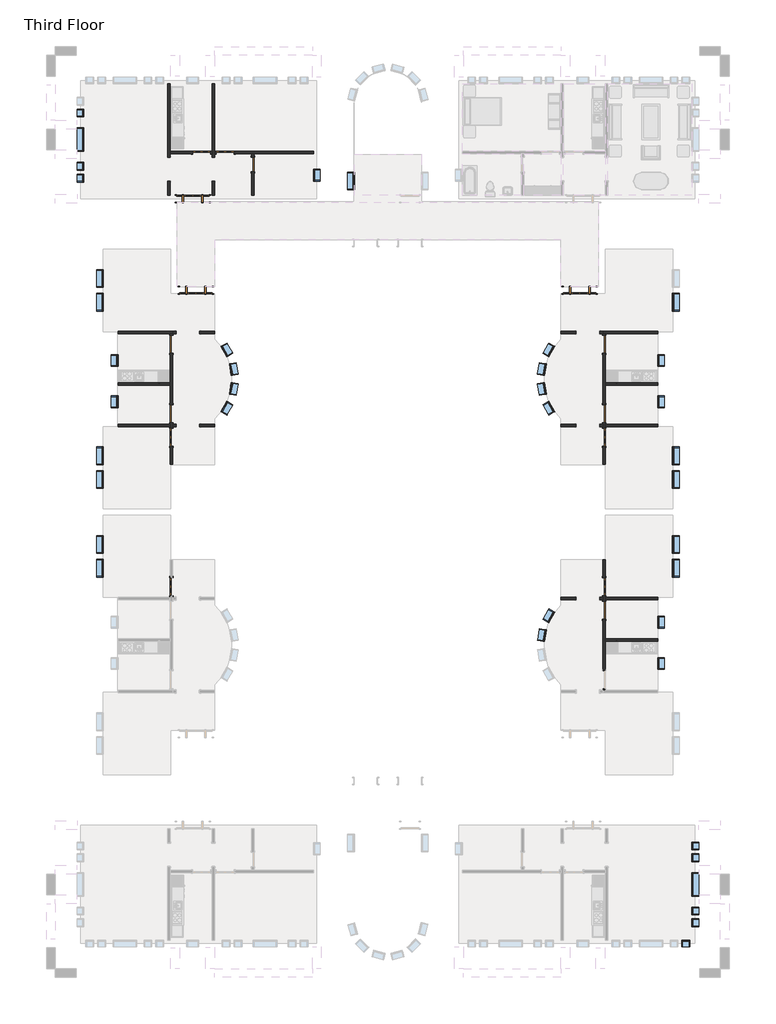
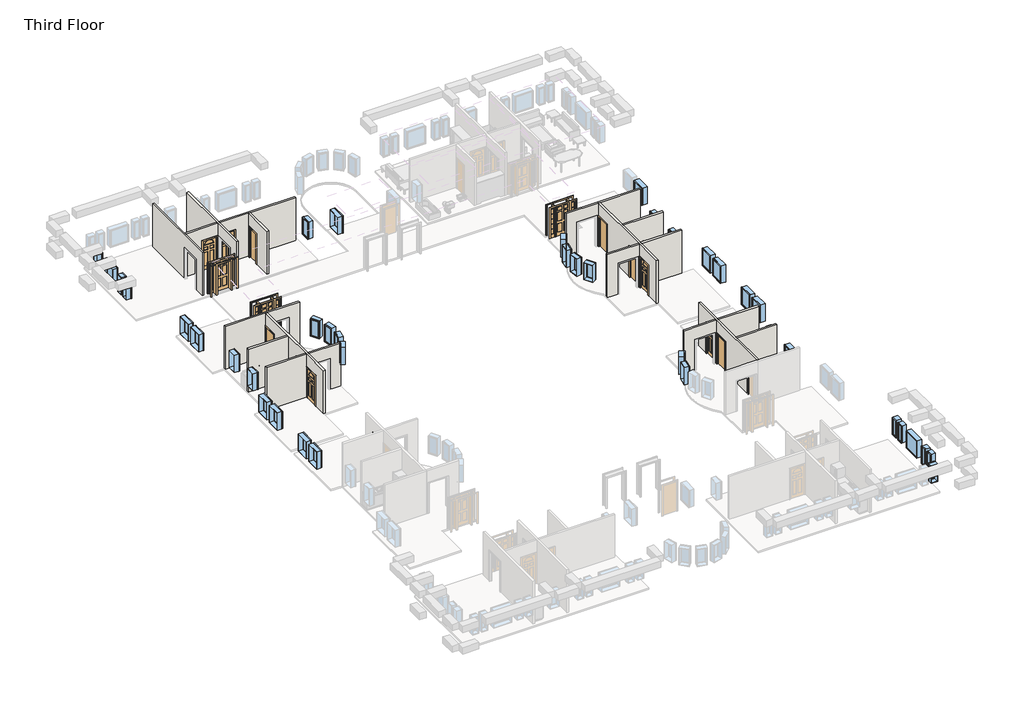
# One storey, part 2 of 4: 39 windows, 21 walls, 15 doors.
"""IFC4 building model written with IfcOpenShell, lengths in millimetres."""

from ifc_helpers import new_model, si_unit, frame, origin, place, context, project, spatial, polyline, outline, extrude, faceted_brep, transform, mapped, element, save
from components import door_829da954, door_2e3b4da2, door_e36758a9, door_a1797ceb, door_a3eb833a, door_dba5aa2e, door_ffdb1193, window_da97879f, window_d61ef850, window_60baf983, window_ed80354a, window_15c49d37, window_0e2fc6ce, window_d89bf842

model = new_model("IFC4")

# Units and contexts
model_context = context("Model", 3, world=origin())
ifc_project = project(units=[si_unit("LENGTHUNIT", "METRE", prefix="MILLI")], contexts=[model_context])

# Site, building, storey
site = spatial("IfcSite", under=ifc_project)
building = spatial("IfcBuilding", under=site)
storey = spatial("IfcBuildingStorey", under=building, Name="Third Floor", Elevation=6096.0)

# Doors
placement = place(None, origin())
door_shape = door_829da954(model_context)
element("IfcDoor", 1, ObjectType="Single-Decorative 2 : 36\" x 84\"", at=placement, inside=storey, context=model_context, shape_type="MappedRepresentation", body=[
    mapped(door_shape, transform((-3900.4589563, -7954.4808133, 6096.0), x_axis=(0.0, 1.0, 0.0), y_axis=(-1.0, 0.0, 0.0), z_axis=(0.0, 0.0, 1.0))),
])
element("IfcDoor", 2, ObjectType="Single-Decorative 2 : 36\" x 84\"", at=placement, inside=storey, context=model_context, shape_type="MappedRepresentation", body=[
    mapped(door_shape, transform((-23455.2839563, 6723.5441867, 6096.0), x_axis=(-1.0, 0.0, 0.0), y_axis=(0.0, -1.0, 0.0), z_axis=(0.0, 0.0, 1.0))),
])
element("IfcDoor", 3, ObjectType="Single-Decorative 2 : 36\" x 84\"", at=placement, inside=storey, context=model_context, shape_type="MappedRepresentation", body=[
    mapped(door_shape, transform((-26223.8839563, -15653.8558133, 6096.0), x_axis=(0.0, -1.0, 0.0), y_axis=(1.0, 0.0, 0.0), z_axis=(0.0, 0.0, 1.0))),
])
door_2_shape = door_2e3b4da2(model_context)
element("IfcDoor", 4, ObjectType="Single-Decorative 2 : 36\" x 84\"", at=placement, inside=storey, context=model_context, shape_type="MappedRepresentation", body=[
    mapped(door_2_shape, transform((-24674.4839563, 6723.5441867, 6096.0), x_axis=(1.0, 0.0, 0.0), y_axis=(0.0, 1.0, 0.0), z_axis=(0.0, 0.0, 1.0))),
])
element("IfcDoor", 5, ObjectType="Single-Decorative 2 : 36\" x 84\"", at=placement, inside=storey, context=model_context, shape_type="MappedRepresentation", body=[
    mapped(door_2_shape, transform((-26223.8839563, -7954.4808133, 6096.0), x_axis=(0.0, 1.0, 0.0), y_axis=(-1.0, 0.0, 0.0), z_axis=(0.0, 0.0, 1.0))),
])
element("IfcDoor", 6, ObjectType="Single-Decorative 2 : 36\" x 84\"", at=placement, inside=storey, context=model_context, shape_type="MappedRepresentation", body=[
    mapped(door_2_shape, transform((-3900.4589563, -15653.8558133, 6096.0), x_axis=(0.0, -1.0, 0.0), y_axis=(1.0, 0.0, 0.0), z_axis=(0.0, 0.0, 1.0))),
])
door_3_shape = door_e36758a9(model_context)
element("IfcDoor", 7, ObjectType="Single-Flush : 30\" x 84\"", at=placement, inside=storey, context=model_context, shape_type="MappedRepresentation", body=[
    mapped(door_3_shape, transform((-22018.5964563, 6113.9441867, 6096.0), x_axis=(0.0, 1.0, 0.0), y_axis=(-1.0, 0.0, 0.0), z_axis=(0.0, 0.0, 1.0))),
])
door_4_shape = door_a1797ceb(model_context)
element("IfcDoor", 8, ObjectType="Single-Flush : 36\" x 84\"", at=placement, inside=storey, context=model_context, shape_type="MappedRepresentation", body=[
    mapped(door_4_shape, transform((-3900.4589563, -6735.2808133, 6096.0), x_axis=(0.0, -1.0, 0.0), y_axis=(1.0, 0.0, 0.0), z_axis=(0.0, 0.0, 1.0))),
])
element("IfcDoor", 9, ObjectType="Single-Flush : 36\" x 84\"", at=placement, inside=storey, context=model_context, shape_type="MappedRepresentation", body=[
    mapped(door_4_shape, transform((-26223.8839563, -3157.0558133, 6096.0), x_axis=(0.0, 1.0, 0.0), y_axis=(-1.0, 0.0, 0.0), z_axis=(0.0, 0.0, 1.0))),
])
door_5_shape = door_a3eb833a(model_context)
element("IfcDoor", 10, ObjectType="Single-Flush : 36\" x 84\"", at=placement, inside=storey, context=model_context, shape_type="MappedRepresentation", body=[
    mapped(door_5_shape, transform((-3900.4589563, -3157.0558133, 6096.0), x_axis=(0.0, 1.0, 0.0), y_axis=(-1.0, 0.0, 0.0), z_axis=(0.0, 0.0, 1.0))),
])
element("IfcDoor", 11, ObjectType="Single-Flush : 36\" x 84\"", at=placement, inside=storey, context=model_context, shape_type="MappedRepresentation", body=[
    mapped(door_5_shape, transform((-26223.8839563, -6735.2808133, 6096.0), x_axis=(0.0, -1.0, 0.0), y_axis=(1.0, 0.0, 0.0), z_axis=(0.0, 0.0, 1.0))),
])
element("IfcDoor", 12, ObjectType="Single-Flush : 36\" x 84\"", at=placement, inside=storey, context=model_context, shape_type="MappedRepresentation", body=[
    mapped(door_5_shape, transform((-3900.4589563, -16873.0558133, 6096.0), x_axis=(0.0, 1.0, 0.0), y_axis=(-1.0, 0.0, 0.0), z_axis=(0.0, 0.0, 1.0))),
])
door_6_shape = door_dba5aa2e(model_context)
element("IfcDoor", 13, ObjectType="Single-Raised Panel with Sidelights : 36\" x 84\"", at=placement, inside=storey, context=model_context, shape_type="MappedRepresentation", body=[
    mapped(door_6_shape, transform((-24968.1714563, -374.1683133, 6096.0), x_axis=(1.0, 0.0, 0.0), y_axis=(0.0, 1.0, 0.0), z_axis=(0.0, 0.0, 1.0))),
])
door_7_shape = door_ffdb1193(model_context)
element("IfcDoor", 14, ObjectType="Single-Raised Panel with Sidelights : 36\" x 84\"", at=placement, inside=storey, context=model_context, shape_type="MappedRepresentation", body=[
    mapped(door_7_shape, transform((-5156.1714563, -374.1683133, 6096.0), x_axis=(-1.0, 0.0, 0.0), y_axis=(0.0, -1.0, 0.0), z_axis=(0.0, 0.0, 1.0))),
])
element("IfcDoor", 15, ObjectType="Single-Raised Panel with Sidelights : 36\" x 84\"", at=placement, inside=storey, context=model_context, shape_type="MappedRepresentation", body=[
    mapped(door_7_shape, transform((-25131.6839563, 4350.2316867, 6096.0), x_axis=(1.0, 0.0, 0.0), y_axis=(0.0, 1.0, 0.0), z_axis=(0.0, 0.0, 1.0))),
])

# Walls
element("IfcWall", 16, ObjectType="Interior - 5\" Partition (2-hr)", at=placement, inside=storey, context=model_context, shape_type="Brep", body=[
    faceted_brep([(-1141.3839563, -2483.9558133, 6096.0), (-3963.9589563, -2483.9558133, 6096.0), (-3963.9589563, -2483.9558133, 9144.0), (-1141.3839563, -2483.9558133, 9144.0), (-1141.3839563, -2610.9558133, 6096.0), (-1141.3839563, -2610.9558133, 9144.0), (-3836.9589563, -2610.9558133, 9144.0), (-3963.9589563, -2610.9558133, 9144.0), (-3963.9589563, -2610.9558133, 6096.0), (-3836.9589563, -2610.9558133, 6096.0)], [[[0, 1, 2, 3]], [[4, 5, 6, 7, 8, 9]], [[1, 0, 4, 9, 8]], [[3, 2, 7, 6, 5]], [[2, 1, 8, 7]], [[0, 3, 5, 4]]]),
])
element("IfcWall", 17, ObjectType="Interior - 5\" Partition (2-hr)", at=placement, inside=storey, context=model_context, shape_type="Brep", body=[
    faceted_brep([(-3836.9589563, -7497.2808133, 8229.6), (-3836.9589563, -7497.2808133, 6096.0), (-3836.9589563, -7408.3808133, 6096.0), (-3836.9589563, -7281.3808133, 6096.0), (-3836.9589563, -7192.4808133, 6096.0), (-3836.9589563, -7192.4808133, 8229.6), (-3836.9589563, -6278.0808133, 8229.6), (-3836.9589563, -6278.0808133, 6096.0), (-3836.9589563, -5274.7808133, 6096.0), (-3836.9589563, -5147.7808133, 6096.0), (-3836.9589563, -3614.2558133, 6096.0), (-3836.9589563, -3614.2558133, 8229.6), (-3836.9589563, -2699.8558133, 8229.6), (-3836.9589563, -2699.8558133, 6096.0), (-3836.9589563, -2610.9558133, 6096.0), (-3836.9589563, -2610.9558133, 9144.0), (-3836.9589563, -5147.7808133, 9144.0), (-3836.9589563, -5274.7808133, 9144.0), (-3836.9589563, -7281.3808133, 9144.0), (-3836.9589563, -7408.3808133, 9144.0), (-3836.9589563, -9341.9558133, 9144.0), (-3836.9589563, -9341.9558133, 6096.0), (-3836.9589563, -8411.6808133, 6096.0), (-3836.9589563, -8411.6808133, 8229.6), (-3963.9589563, -7192.4808133, 6096.0), (-3963.9589563, -7281.3808133, 6096.0), (-3963.9589563, -7408.3808133, 6096.0), (-3963.9589563, -7497.2808133, 6096.0), (-3963.9589563, -7497.2808133, 8229.6), (-3963.9589563, -8411.6808133, 8229.6), (-3963.9589563, -8411.6808133, 6096.0), (-3963.9589563, -9341.9558133, 6096.0), (-3963.9589563, -9341.9558133, 9144.0), (-3963.9589563, -7408.3808133, 9144.0), (-3963.9589563, -7281.3808133, 9144.0), (-3963.9589563, -2610.9558133, 9144.0), (-3963.9589563, -2610.9558133, 6096.0), (-3963.9589563, -2699.8558133, 6096.0), (-3963.9589563, -2699.8558133, 8229.6), (-3963.9589563, -3614.2558133, 8229.6), (-3963.9589563, -3614.2558133, 6096.0), (-3963.9589563, -6278.0808133, 6096.0), (-3963.9589563, -6278.0808133, 8229.6), (-3963.9589563, -7192.4808133, 8229.6)], [[[0, 1, 2, 3, 4, 5, 6, 7, 8, 9, 10, 11, 12, 13, 14, 15, 16, 17, 18, 19, 20, 21, 22, 23]], [[24, 25, 26, 27, 28, 29, 30, 31, 32, 33, 34, 35, 36, 37, 38, 39, 40, 41, 42, 43]], [[14, 13, 37, 36]], [[4, 3, 2, 1, 27, 26, 25, 24]], [[41, 40, 10, 9, 8, 7]], [[22, 21, 31, 30]], [[20, 19, 18, 17, 16, 15, 35, 34, 33, 32]], [[15, 14, 36, 35]], [[21, 20, 32, 31]], [[38, 37, 13, 12]], [[39, 38, 12, 11]], [[40, 39, 11, 10]], [[5, 4, 24, 43]], [[6, 5, 43, 42]], [[7, 6, 42, 41]], [[28, 27, 1, 0]], [[29, 28, 0, 23]], [[30, 29, 23, 22]]]),
])
element("IfcWall", 18, ObjectType="Interior - 5\" Partition (2-hr)", at=placement, inside=storey, context=model_context, shape_type="SweptSolid", body=[
    extrude(outline(polyline([(-3836.9589563, -7281.3808133), (-1141.3839563, -7281.3808133), (-1141.3839563, -7408.3808133), (-3836.9589563, -7408.3808133), (-3836.9589563, -7281.3808133)])), frame((0.0, 0.0, 6096.0), z_axis=(0.0, 0.0, 1.0), x_axis=(1.0, 0.0, 0.0)), (0.0, 0.0, 1.0), 3048.0),
])
element("IfcWall", 19, ObjectType="Interior - 5\" Partition (2-hr)", at=placement, inside=storey, context=model_context, shape_type="SweptSolid", body=[
    extrude(outline(polyline([(-1141.3839563, -5274.7808133), (-3836.9589563, -5274.7808133), (-3836.9589563, -5147.7808133), (-1141.3839563, -5147.7808133), (-1141.3839563, -5274.7808133)])), frame((0.0, 0.0, 6096.0), z_axis=(0.0, 0.0, 1.0), x_axis=(1.0, 0.0, 0.0)), (0.0, 0.0, 1.0), 3048.0),
])
element("IfcWall", 20, ObjectType="Interior - 5\" Partition (2-hr)", at=placement, inside=storey, context=model_context, shape_type="SweptSolid", body=[
    extrude(outline(polyline([(6096.0, -6122.9589563), (6096.0, -5348.2589563), (8229.6, -5348.2589563), (8229.6, -4129.0589563), (6096.0, -4129.0589563), (6096.0, -3963.9589563), (9144.0, -3963.9589563), (9144.0, -6122.9589563), (6096.0, -6122.9589563)])), frame((0.0, -7408.3808133, 0.0), z_axis=(0.0, 1.0, 0.0), x_axis=(0.0, 0.0, 1.0)), (0.0, 0.0, 1.0), 127.0),
])
element("IfcWall", 21, ObjectType="Interior - 5\" Partition (2-hr)", at=placement, inside=storey, context=model_context, shape_type="SweptSolid", body=[
    extrude(outline(polyline([(8229.6, -4129.0589563), (6096.0, -4129.0589563), (6096.0, -3963.9589563), (9144.0, -3963.9589563), (9144.0, -6122.9589563), (6096.0, -6122.9589563), (6096.0, -5348.2589563), (8229.6, -5348.2589563), (8229.6, -4129.0589563)])), frame((0.0, -2610.9558133, 0.0), z_axis=(0.0, 1.0, 0.0), x_axis=(0.0, 0.0, 1.0)), (0.0, 0.0, 1.0), 127.0),
])
element("IfcWall", 22, ObjectType="Interior - 5\" Partition (2-hr)", at=placement, inside=storey, context=model_context, shape_type="Brep", body=[
    faceted_brep([(-26414.3839563, 10270.0191867, 6096.0), (-26414.3839563, 6483.8316867, 6096.0), (-26414.3839563, 6483.8316867, 8229.6), (-26414.3839563, 5264.6316867, 8229.6), (-26414.3839563, 5264.6316867, 6096.0), (-26414.3839563, 4526.4441867, 6096.0), (-26414.3839563, 4526.4441867, 9144.0), (-26414.3839563, 10270.0191867, 9144.0), (-26287.3839563, 6483.8316867, 8229.6), (-26287.3839563, 6483.8316867, 6096.0), (-26287.3839563, 6660.0441867, 6096.0), (-26287.3839563, 6787.0441867, 6096.0), (-26287.3839563, 10270.0191867, 6096.0), (-26287.3839563, 10270.0191867, 9144.0), (-26287.3839563, 6787.0441867, 9144.0), (-26287.3839563, 6660.0441867, 9144.0), (-26287.3839563, 4526.4441867, 9144.0), (-26287.3839563, 4526.4441867, 6096.0), (-26287.3839563, 5264.6316867, 6096.0), (-26287.3839563, 5264.6316867, 8229.6)], [[[0, 1, 2, 3, 4, 5, 6, 7]], [[8, 9, 10, 11, 12, 13, 14, 15, 16, 17, 18, 19]], [[12, 11, 10, 9, 1, 0]], [[18, 17, 5, 4]], [[7, 6, 16, 15, 14, 13]], [[0, 7, 13, 12]], [[6, 5, 17, 16]], [[4, 3, 19, 18]], [[2, 1, 9, 8]], [[3, 2, 8, 19]]]),
])
element("IfcWall", 23, ObjectType="Interior - 5\" Partition (2-hr)", at=placement, inside=storey, context=model_context, shape_type="Brep", body=[
    faceted_brep([(-24128.3839563, 5264.6316867, 8229.6), (-24128.3839563, 5264.6316867, 6096.0), (-24128.3839563, 4526.4441867, 6096.0), (-24128.3839563, 4526.4441867, 9144.0), (-24128.3839563, 6660.0441867, 9144.0), (-24128.3839563, 6787.0441867, 9144.0), (-24128.3839563, 10270.0191867, 9144.0), (-24128.3839563, 10270.0191867, 6096.0), (-24128.3839563, 6787.0441867, 6096.0), (-24128.3839563, 6660.0441867, 6096.0), (-24128.3839563, 6483.8316867, 6096.0), (-24128.3839563, 6483.8316867, 8229.6), (-24001.3839563, 4526.4441867, 6096.0), (-24001.3839563, 5264.6316867, 6096.0), (-24001.3839563, 5264.6316867, 8229.6), (-24001.3839563, 6483.8316867, 8229.6), (-24001.3839563, 6483.8316867, 6096.0), (-24001.3839563, 6660.0441867, 6096.0), (-24001.3839563, 6787.0441867, 6096.0), (-24001.3839563, 10270.0191867, 6096.0), (-24001.3839563, 10270.0191867, 9144.0), (-24001.3839563, 6787.0441867, 9144.0), (-24001.3839563, 6660.0441867, 9144.0), (-24001.3839563, 4526.4441867, 9144.0)], [[[0, 1, 2, 3, 4, 5, 6, 7, 8, 9, 10, 11]], [[12, 13, 14, 15, 16, 17, 18, 19, 20, 21, 22, 23]], [[2, 1, 13, 12]], [[10, 9, 8, 7, 19, 18, 17, 16]], [[6, 5, 4, 3, 23, 22, 21, 20]], [[7, 6, 20, 19]], [[3, 2, 12, 23]], [[16, 15, 11, 10]], [[14, 13, 1, 0]], [[15, 14, 0, 11]]]),
])
element("IfcWall", 24, ObjectType="Interior - 5\" Partition (2-hr)", at=placement, inside=storey, context=model_context, shape_type="Brep", body=[
    faceted_brep([(-23912.4839563, 6787.0441867, 8229.6), (-23912.4839563, 6787.0441867, 6096.0), (-24001.3839563, 6787.0441867, 6096.0), (-24001.3839563, 6787.0441867, 9144.0), (-18907.0964563, 6787.0441867, 9144.0), (-18907.0964563, 6787.0441867, 6096.0), (-22998.0839563, 6787.0441867, 6096.0), (-22998.0839563, 6787.0441867, 8229.6), (-24001.3839563, 6660.0441867, 6096.0), (-23912.4839563, 6660.0441867, 6096.0), (-23912.4839563, 6660.0441867, 8229.6), (-22998.0839563, 6660.0441867, 8229.6), (-22998.0839563, 6660.0441867, 6096.0), (-22082.0964563, 6660.0441867, 6096.0), (-21955.0964563, 6660.0441867, 6096.0), (-18907.0964563, 6660.0441867, 6096.0), (-18907.0964563, 6660.0441867, 9144.0), (-21955.0964563, 6660.0441867, 9144.0), (-22082.0964563, 6660.0441867, 9144.0), (-24001.3839563, 6660.0441867, 9144.0)], [[[0, 1, 2, 3, 4, 5, 6, 7]], [[8, 9, 10, 11, 12, 13, 14, 15, 16, 17, 18, 19]], [[2, 1, 9, 8]], [[6, 5, 15, 14, 13, 12]], [[4, 3, 19, 18, 17, 16]], [[3, 2, 8, 19]], [[5, 4, 16, 15]], [[10, 9, 1, 0]], [[11, 10, 0, 7]], [[12, 11, 7, 6]]]),
])
element("IfcWall", 25, ObjectType="Interior - 5\" Partition (2-hr)", at=placement, inside=storey, context=model_context, shape_type="SweptSolid", body=[
    extrude(outline(polyline([(6660.0441867, 6096.0), (6494.9441867, 6096.0), (6494.9441867, 8229.6), (5732.9441867, 8229.6), (5732.9441867, 6096.0), (4526.4441867, 6096.0), (4526.4441867, 9144.0), (6660.0441867, 9144.0), (6660.0441867, 6096.0)])), frame((-22082.0964563, 0.0, 0.0), z_axis=(1.0, 0.0, 0.0), x_axis=(0.0, 1.0, 0.0)), (0.0, 0.0, 1.0), 127.0),
])
element("IfcWall", 26, ObjectType="Interior - 5\" Partition (2-hr)", at=placement, inside=storey, context=model_context, shape_type="SweptSolid", body=[
    extrude(outline(polyline([(8229.6, -24217.2839563), (6096.0, -24217.2839563), (6096.0, -24128.3839563), (9144.0, -24128.3839563), (9144.0, -26287.3839563), (6096.0, -26287.3839563), (6096.0, -25131.6839563), (8229.6, -25131.6839563), (8229.6, -24217.2839563)])), frame((0.0, 6660.0441867, 0.0), z_axis=(0.0, 1.0, 0.0), x_axis=(0.0, 0.0, 1.0)), (0.0, 0.0, 1.0), 127.0),
])
element("IfcWall", 27, ObjectType="Interior - 5\" Partition (2-hr)", at=placement, inside=storey, context=model_context, shape_type="Brep", body=[
    faceted_brep([(-28982.9589563, -2610.9558133, 6096.0), (-26287.3839563, -2610.9558133, 6096.0), (-26160.3839563, -2610.9558133, 6096.0), (-26160.3839563, -2610.9558133, 9144.0), (-26287.3839563, -2610.9558133, 9144.0), (-28982.9589563, -2610.9558133, 9144.0), (-28982.9589563, -2483.9558133, 6096.0), (-28982.9589563, -2483.9558133, 9144.0), (-26160.3839563, -2483.9558133, 9144.0), (-26160.3839563, -2483.9558133, 6096.0)], [[[0, 1, 2, 3, 4, 5]], [[6, 7, 8, 9]], [[2, 1, 0, 6, 9]], [[5, 4, 3, 8, 7]], [[3, 2, 9, 8]], [[0, 5, 7, 6]]]),
])
element("IfcWall", 28, ObjectType="Interior - 5\" Partition (2-hr)", at=placement, inside=storey, context=model_context, shape_type="Brep", body=[
    faceted_brep([(-26160.3839563, -7497.2808133, 8229.6), (-26160.3839563, -7497.2808133, 6096.0), (-26160.3839563, -7408.3808133, 6096.0), (-26160.3839563, -7281.3808133, 6096.0), (-26160.3839563, -7192.4808133, 6096.0), (-26160.3839563, -7192.4808133, 8229.6), (-26160.3839563, -6278.0808133, 8229.6), (-26160.3839563, -6278.0808133, 6096.0), (-26160.3839563, -3614.2558133, 6096.0), (-26160.3839563, -3614.2558133, 8229.6), (-26160.3839563, -2699.8558133, 8229.6), (-26160.3839563, -2699.8558133, 6096.0), (-26160.3839563, -2610.9558133, 6096.0), (-26160.3839563, -2610.9558133, 9144.0), (-26160.3839563, -7281.3808133, 9144.0), (-26160.3839563, -7408.3808133, 9144.0), (-26160.3839563, -9341.9558133, 9144.0), (-26160.3839563, -9341.9558133, 6096.0), (-26160.3839563, -8411.6808133, 6096.0), (-26160.3839563, -8411.6808133, 8229.6), (-26287.3839563, -7192.4808133, 6096.0), (-26287.3839563, -7281.3808133, 6096.0), (-26287.3839563, -7408.3808133, 6096.0), (-26287.3839563, -7497.2808133, 6096.0), (-26287.3839563, -7497.2808133, 8229.6), (-26287.3839563, -8411.6808133, 8229.6), (-26287.3839563, -8411.6808133, 6096.0), (-26287.3839563, -9341.9558133, 6096.0), (-26287.3839563, -9341.9558133, 9144.0), (-26287.3839563, -7408.3808133, 9144.0), (-26287.3839563, -7281.3808133, 9144.0), (-26287.3839563, -5274.7808133, 9144.0), (-26287.3839563, -5147.7808133, 9144.0), (-26287.3839563, -2610.9558133, 9144.0), (-26287.3839563, -2610.9558133, 6096.0), (-26287.3839563, -2699.8558133, 6096.0), (-26287.3839563, -2699.8558133, 8229.6), (-26287.3839563, -3614.2558133, 8229.6), (-26287.3839563, -3614.2558133, 6096.0), (-26287.3839563, -5147.7808133, 6096.0), (-26287.3839563, -5274.7808133, 6096.0), (-26287.3839563, -6278.0808133, 6096.0), (-26287.3839563, -6278.0808133, 8229.6), (-26287.3839563, -7192.4808133, 8229.6)], [[[0, 1, 2, 3, 4, 5, 6, 7, 8, 9, 10, 11, 12, 13, 14, 15, 16, 17, 18, 19]], [[20, 21, 22, 23, 24, 25, 26, 27, 28, 29, 30, 31, 32, 33, 34, 35, 36, 37, 38, 39, 40, 41, 42, 43]], [[12, 11, 35, 34]], [[4, 3, 2, 1, 23, 22, 21, 20]], [[41, 40, 39, 38, 8, 7]], [[18, 17, 27, 26]], [[16, 15, 14, 13, 33, 32, 31, 30, 29, 28]], [[13, 12, 34, 33]], [[17, 16, 28, 27]], [[36, 35, 11, 10]], [[37, 36, 10, 9]], [[38, 37, 9, 8]], [[5, 4, 20, 43]], [[6, 5, 43, 42]], [[7, 6, 42, 41]], [[24, 23, 1, 0]], [[25, 24, 0, 19]], [[26, 25, 19, 18]]]),
])
element("IfcWall", 29, ObjectType="Interior - 5\" Partition (2-hr)", at=placement, inside=storey, context=model_context, shape_type="SweptSolid", body=[
    extrude(outline(polyline([(-26287.3839563, -7408.3808133), (-28982.9589563, -7408.3808133), (-28982.9589563, -7281.3808133), (-26287.3839563, -7281.3808133), (-26287.3839563, -7408.3808133)])), frame((0.0, 0.0, 6096.0), z_axis=(0.0, 0.0, 1.0), x_axis=(1.0, 0.0, 0.0)), (0.0, 0.0, 1.0), 3048.0),
])
element("IfcWall", 30, ObjectType="Interior - 5\" Partition (2-hr)", at=placement, inside=storey, context=model_context, shape_type="SweptSolid", body=[
    extrude(outline(polyline([(-28982.9589563, -5147.7808133), (-26287.3839563, -5147.7808133), (-26287.3839563, -5274.7808133), (-28982.9589563, -5274.7808133), (-28982.9589563, -5147.7808133)])), frame((0.0, 0.0, 6096.0), z_axis=(0.0, 0.0, 1.0), x_axis=(1.0, 0.0, 0.0)), (0.0, 0.0, 1.0), 3048.0),
])
element("IfcWall", 31, ObjectType="Interior - 5\" Partition (2-hr)", at=placement, inside=storey, context=model_context, shape_type="SweptSolid", body=[
    extrude(outline(polyline([(8229.6, -24776.0839563), (6096.0, -24776.0839563), (6096.0, -24001.3839563), (9144.0, -24001.3839563), (9144.0, -26160.3839563), (6096.0, -26160.3839563), (6096.0, -25995.2839563), (8229.6, -25995.2839563), (8229.6, -24776.0839563)])), frame((0.0, -7408.3808133, 0.0), z_axis=(0.0, 1.0, 0.0), x_axis=(0.0, 0.0, 1.0)), (0.0, 0.0, 1.0), 127.0),
])
element("IfcWall", 32, ObjectType="Interior - 5\" Partition (2-hr)", at=placement, inside=storey, context=model_context, shape_type="SweptSolid", body=[
    extrude(outline(polyline([(6096.0, -26160.3839563), (6096.0, -25995.2839563), (8229.6, -25995.2839563), (8229.6, -24776.0839563), (6096.0, -24776.0839563), (6096.0, -24001.3839563), (9144.0, -24001.3839563), (9144.0, -26160.3839563), (6096.0, -26160.3839563)])), frame((0.0, -2610.9558133, 0.0), z_axis=(0.0, 1.0, 0.0), x_axis=(0.0, 0.0, 1.0)), (0.0, 0.0, 1.0), 127.0),
])
element("IfcWall", 33, ObjectType="Interior - 5\" Partition (2-hr)", at=placement, inside=storey, context=model_context, shape_type="Brep", body=[
    faceted_brep([(-3963.9589563, -16111.0558133, 8229.6), (-3963.9589563, -16111.0558133, 6096.0), (-3963.9589563, -16199.9558133, 6096.0), (-3963.9589563, -16326.9558133, 6096.0), (-3963.9589563, -16415.8558133, 6096.0), (-3963.9589563, -16415.8558133, 8229.6), (-3963.9589563, -17330.2558133, 8229.6), (-3963.9589563, -17330.2558133, 6096.0), (-3963.9589563, -19994.0808133, 6096.0), (-3963.9589563, -19994.0808133, 8229.6), (-3963.9589563, -20908.4808133, 8229.6), (-3963.9589563, -20908.4808133, 6096.0), (-3963.9589563, -20997.3808133, 6096.0), (-3963.9589563, -20997.3808133, 9144.0), (-3963.9589563, -16326.9558133, 9144.0), (-3963.9589563, -16199.9558133, 9144.0), (-3963.9589563, -14266.3808133, 9144.0), (-3963.9589563, -14266.3808133, 6096.0), (-3963.9589563, -15196.6558133, 6096.0), (-3963.9589563, -15196.6558133, 8229.6), (-3836.9589563, -16415.8558133, 6096.0), (-3836.9589563, -16326.9558133, 6096.0), (-3836.9589563, -16199.9558133, 6096.0), (-3836.9589563, -16111.0558133, 6096.0), (-3836.9589563, -16111.0558133, 8229.6), (-3836.9589563, -15196.6558133, 8229.6), (-3836.9589563, -15196.6558133, 6096.0), (-3836.9589563, -14266.3808133, 6096.0), (-3836.9589563, -14266.3808133, 9144.0), (-3836.9589563, -16199.9558133, 9144.0), (-3836.9589563, -16326.9558133, 9144.0), (-3836.9589563, -18333.5558133, 9144.0), (-3836.9589563, -18460.5558133, 9144.0), (-3836.9589563, -20997.3808133, 9144.0), (-3836.9589563, -20997.3808133, 6096.0), (-3836.9589563, -20908.4808133, 6096.0), (-3836.9589563, -20908.4808133, 8229.6), (-3836.9589563, -19994.0808133, 8229.6), (-3836.9589563, -19994.0808133, 6096.0), (-3836.9589563, -18460.5558133, 6096.0), (-3836.9589563, -18333.5558133, 6096.0), (-3836.9589563, -17330.2558133, 6096.0), (-3836.9589563, -17330.2558133, 8229.6), (-3836.9589563, -16415.8558133, 8229.6)], [[[0, 1, 2, 3, 4, 5, 6, 7, 8, 9, 10, 11, 12, 13, 14, 15, 16, 17, 18, 19]], [[20, 21, 22, 23, 24, 25, 26, 27, 28, 29, 30, 31, 32, 33, 34, 35, 36, 37, 38, 39, 40, 41, 42, 43]], [[12, 11, 35, 34]], [[4, 3, 2, 1, 23, 22, 21, 20]], [[41, 40, 39, 38, 8, 7]], [[18, 17, 27, 26]], [[16, 15, 14, 13, 33, 32, 31, 30, 29, 28]], [[13, 12, 34, 33]], [[17, 16, 28, 27]], [[36, 35, 11, 10]], [[37, 36, 10, 9]], [[38, 37, 9, 8]], [[5, 4, 20, 43]], [[6, 5, 43, 42]], [[7, 6, 42, 41]], [[24, 23, 1, 0]], [[25, 24, 0, 19]], [[26, 25, 19, 18]]]),
])
element("IfcWall", 34, ObjectType="Interior - 5\" Partition (2-hr)", at=placement, inside=storey, context=model_context, shape_type="SweptSolid", body=[
    extrude(outline(polyline([(-3836.9589563, -16199.9558133), (-1141.3839563, -16199.9558133), (-1141.3839563, -16326.9558133), (-3836.9589563, -16326.9558133), (-3836.9589563, -16199.9558133)])), frame((0.0, 0.0, 6096.0), z_axis=(0.0, 0.0, 1.0), x_axis=(1.0, 0.0, 0.0)), (0.0, 0.0, 1.0), 3048.0),
])
element("IfcWall", 35, ObjectType="Interior - 5\" Partition (2-hr)", at=placement, inside=storey, context=model_context, shape_type="SweptSolid", body=[
    extrude(outline(polyline([(-1141.3839563, -18460.5558133), (-3836.9589563, -18460.5558133), (-3836.9589563, -18333.5558133), (-1141.3839563, -18333.5558133), (-1141.3839563, -18460.5558133)])), frame((0.0, 0.0, 6096.0), z_axis=(0.0, 0.0, 1.0), x_axis=(1.0, 0.0, 0.0)), (0.0, 0.0, 1.0), 3048.0),
])
element("IfcWall", 36, ObjectType="Interior - 5\" Partition (2-hr)", at=placement, inside=storey, context=model_context, shape_type="SweptSolid", body=[
    extrude(outline(polyline([(6096.0, -6122.9589563), (6096.0, -5348.2589563), (8229.6, -5348.2589563), (8229.6, -4129.0589563), (6096.0, -4129.0589563), (6096.0, -3963.9589563), (9144.0, -3963.9589563), (9144.0, -6122.9589563), (6096.0, -6122.9589563)])), frame((0.0, -16326.9558133, 0.0), z_axis=(0.0, 1.0, 0.0), x_axis=(0.0, 0.0, 1.0)), (0.0, 0.0, 1.0), 127.0),
])

# Windows
window_shape = window_da97879f(model_context)
element("IfcWindow", 37, ObjectType="Fixed : 16\" x 48\"", at=placement, inside=storey, context=model_context, shape_type="MappedRepresentation", body=[
    mapped(window_shape, transform((-30922.8839563, 5378.9316867, 6096.0), x_axis=(0.0, -1.0, 0.0), y_axis=(1.0, 0.0, 0.0), z_axis=(0.0, 0.0, 1.0))),
])
element("IfcWindow", 38, ObjectType="Fixed : 16\" x 48\"", at=placement, inside=storey, context=model_context, shape_type="MappedRepresentation", body=[
    mapped(window_shape, transform((-30922.8839563, 5988.5316867, 6096.0), x_axis=(0.0, -1.0, 0.0), y_axis=(1.0, 0.0, 0.0), z_axis=(0.0, 0.0, 1.0))),
])
element("IfcWindow", 39, ObjectType="Fixed : 16\" x 48\"", at=placement, inside=storey, context=model_context, shape_type="MappedRepresentation", body=[
    mapped(window_shape, transform((354.0410437, -34054.5683133, 6096.0), x_axis=(1.0, 0.0, 0.0), y_axis=(0.0, 1.0, 0.0), z_axis=(0.0, 0.0, 1.0))),
])
element("IfcWindow", 40, ObjectType="Fixed : 16\" x 48\"", at=placement, inside=storey, context=model_context, shape_type="MappedRepresentation", body=[
    mapped(window_shape, transform((798.5410437, -28987.2683133, 6096.0), x_axis=(0.0, 1.0, 0.0), y_axis=(-1.0, 0.0, 0.0), z_axis=(0.0, 0.0, 1.0))),
])
element("IfcWindow", 41, ObjectType="Fixed : 16\" x 48\"", at=placement, inside=storey, context=model_context, shape_type="MappedRepresentation", body=[
    mapped(window_shape, transform((798.5410437, -29596.8683133, 6096.0), x_axis=(0.0, 1.0, 0.0), y_axis=(-1.0, 0.0, 0.0), z_axis=(0.0, 0.0, 1.0))),
])
window_2_shape = window_d61ef850(model_context)
element("IfcWindow", 42, ObjectType="Fixed : 16\" x 48\"", at=placement, inside=storey, context=model_context, shape_type="MappedRepresentation", body=[
    mapped(window_2_shape, transform((-30922.8839563, 8807.9316867, 6096.0), x_axis=(0.0, 1.0, 0.0), y_axis=(-1.0, 0.0, 0.0), z_axis=(0.0, 0.0, 1.0))),
])
element("IfcWindow", 43, ObjectType="Fixed : 16\" x 48\"", at=placement, inside=storey, context=model_context, shape_type="MappedRepresentation", body=[
    mapped(window_2_shape, transform((798.5410437, -33025.8683133, 6096.0), x_axis=(0.0, -1.0, 0.0), y_axis=(1.0, 0.0, 0.0), z_axis=(0.0, 0.0, 1.0))),
])
element("IfcWindow", 44, ObjectType="Fixed : 16\" x 48\"", at=placement, inside=storey, context=model_context, shape_type="MappedRepresentation", body=[
    mapped(window_2_shape, transform((798.5410437, -32416.2683133, 6096.0), x_axis=(0.0, -1.0, 0.0), y_axis=(1.0, 0.0, 0.0), z_axis=(0.0, 0.0, 1.0))),
])
window_3_shape = window_60baf983(model_context)
element("IfcWindow", 45, ObjectType="Fixed : 24\" x 48\"", at=placement, inside=storey, context=model_context, shape_type="MappedRepresentation", body=[
    mapped(window_3_shape, transform((-6775.1467215, -3474.0215337, 6096.0), x_axis=(-0.496191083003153, -0.868213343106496, 0.0), y_axis=(0.868213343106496, -0.496191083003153, 0.0), z_axis=(0.0, 0.0, 1.0))),
])
element("IfcWindow", 46, ObjectType="Fixed : 24\" x 48\"", at=placement, inside=storey, context=model_context, shape_type="MappedRepresentation", body=[
    mapped(window_3_shape, transform((-7118.4751134, -4468.822297, 6096.0), x_axis=(-0.16973229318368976, -0.9854902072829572, 0.0), y_axis=(0.9854902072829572, -0.16973229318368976, 0.0), z_axis=(0.0, 0.0, 1.0))),
])
element("IfcWindow", 47, ObjectType="Fixed : 24\" x 48\"", at=placement, inside=storey, context=model_context, shape_type="MappedRepresentation", body=[
    mapped(window_3_shape, transform((-29159.1714563, -4030.1808133, 6096.0), x_axis=(0.0, -1.0, 0.0), y_axis=(1.0, 0.0, 0.0), z_axis=(0.0, 0.0, 1.0))),
])
element("IfcWindow", 48, ObjectType="Fixed : 24\" x 48\"", at=placement, inside=storey, context=model_context, shape_type="MappedRepresentation", body=[
    mapped(window_3_shape, transform((-29159.1714563, -6163.7808133, 6096.0), x_axis=(0.0, -1.0, 0.0), y_axis=(1.0, 0.0, 0.0), z_axis=(0.0, 0.0, 1.0))),
])
element("IfcWindow", 49, ObjectType="Fixed : 24\" x 48\"", at=placement, inside=storey, context=model_context, shape_type="MappedRepresentation", body=[
    mapped(window_3_shape, transform((-23350.7429238, -6417.4311225, 6096.0), x_axis=(0.49619108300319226, 0.8682133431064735, 0.0), y_axis=(-0.8682133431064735, 0.49619108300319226, 0.0), z_axis=(0.0, 0.0, 1.0))),
])
element("IfcWindow", 50, ObjectType="Fixed : 24\" x 48\"", at=placement, inside=storey, context=model_context, shape_type="MappedRepresentation", body=[
    mapped(window_3_shape, transform((-23007.6234621, -5423.2119495, 6096.0), x_axis=(0.1697322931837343, 0.9854902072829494, 0.0), y_axis=(-0.9854902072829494, 0.1697322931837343, 0.0), z_axis=(0.0, 0.0, 1.0))),
])
element("IfcWindow", 51, ObjectType="Fixed : 24\" x 48\"", at=placement, inside=storey, context=model_context, shape_type="MappedRepresentation", body=[
    mapped(window_3_shape, transform((-965.1714563, -19578.1558133, 6096.0), x_axis=(0.0, 1.0, 0.0), y_axis=(-1.0, 0.0, 0.0), z_axis=(0.0, 0.0, 1.0))),
])
element("IfcWindow", 52, ObjectType="Fixed : 24\" x 48\"", at=placement, inside=storey, context=model_context, shape_type="MappedRepresentation", body=[
    mapped(window_3_shape, transform((-965.1714563, -17444.5558133, 6096.0), x_axis=(0.0, 1.0, 0.0), y_axis=(-1.0, 0.0, 0.0), z_axis=(0.0, 0.0, 1.0))),
])
element("IfcWindow", 53, ObjectType="Fixed : 24\" x 48\"", at=placement, inside=storey, context=model_context, shape_type="MappedRepresentation", body=[
    mapped(window_3_shape, transform((-6773.5999888, -17190.9055042, 6096.0), x_axis=(-0.4961910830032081, -0.8682133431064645, 0.0), y_axis=(0.8682133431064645, -0.4961910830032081, 0.0), z_axis=(0.0, 0.0, 1.0))),
])
element("IfcWindow", 54, ObjectType="Fixed : 24\" x 48\"", at=placement, inside=storey, context=model_context, shape_type="MappedRepresentation", body=[
    mapped(window_3_shape, transform((-7116.7194505, -18185.1246771, 6096.0), x_axis=(-0.16973229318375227, -0.9854902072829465, 0.0), y_axis=(0.9854902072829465, -0.16973229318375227, 0.0), z_axis=(0.0, 0.0, 1.0))),
])
window_4_shape = window_ed80354a(model_context)
element("IfcWindow", 55, ObjectType="Fixed : 24\" x 48\"", at=placement, inside=storey, context=model_context, shape_type="MappedRepresentation", body=[
    mapped(window_4_shape, transform((-965.1714563, -4030.1808133, 6096.0), x_axis=(0.0, -1.0, 0.0), y_axis=(1.0, 0.0, 0.0), z_axis=(0.0, 0.0, 1.0))),
])
element("IfcWindow", 56, ObjectType="Fixed : 24\" x 48\"", at=placement, inside=storey, context=model_context, shape_type="MappedRepresentation", body=[
    mapped(window_4_shape, transform((-965.1714563, -6163.7808133, 6096.0), x_axis=(0.0, -1.0, 0.0), y_axis=(1.0, 0.0, 0.0), z_axis=(0.0, 0.0, 1.0))),
])
element("IfcWindow", 57, ObjectType="Fixed : 24\" x 48\"", at=placement, inside=storey, context=model_context, shape_type="MappedRepresentation", body=[
    mapped(window_4_shape, transform((-6775.1467215, -6418.3150929, 6096.0), x_axis=(-0.49619108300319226, 0.8682133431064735, 0.0), y_axis=(-0.8682133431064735, -0.49619108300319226, 0.0), z_axis=(0.0, 0.0, 1.0))),
])
element("IfcWindow", 58, ObjectType="Fixed : 24\" x 48\"", at=placement, inside=storey, context=model_context, shape_type="MappedRepresentation", body=[
    mapped(window_4_shape, transform((-7118.4751134, -5423.5143296, 6096.0), x_axis=(-0.1697322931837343, 0.9854902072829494, 0.0), y_axis=(-0.9854902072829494, -0.1697322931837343, 0.0), z_axis=(0.0, 0.0, 1.0))),
])
element("IfcWindow", 59, ObjectType="Fixed : 24\" x 48\"", at=placement, inside=storey, context=model_context, shape_type="MappedRepresentation", body=[
    mapped(window_4_shape, transform((-18730.8839563, 5531.3316867, 6096.0), x_axis=(0.0, -1.0, 0.0), y_axis=(1.0, 0.0, 0.0), z_axis=(0.0, 0.0, 1.0))),
])
element("IfcWindow", 60, ObjectType="Fixed : 24\" x 48\"", at=placement, inside=storey, context=model_context, shape_type="MappedRepresentation", body=[
    mapped(window_4_shape, transform((-23350.7429238, -3474.9055042, 6096.0), x_axis=(0.496191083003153, -0.868213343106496, 0.0), y_axis=(0.868213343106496, 0.496191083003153, 0.0), z_axis=(0.0, 0.0, 1.0))),
])
element("IfcWindow", 61, ObjectType="Fixed : 24\" x 48\"", at=placement, inside=storey, context=model_context, shape_type="MappedRepresentation", body=[
    mapped(window_4_shape, transform((-23007.6234621, -4469.1246771, 6096.0), x_axis=(0.16973229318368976, -0.9854902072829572, 0.0), y_axis=(0.9854902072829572, 0.16973229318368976, 0.0), z_axis=(0.0, 0.0, 1.0))),
])
window_5_shape = window_15c49d37(model_context)
element("IfcWindow", 62, ObjectType="Fixed : 36\" x 48\"", at=placement, inside=storey, context=model_context, shape_type="MappedRepresentation", body=[
    mapped(window_5_shape, transform((-16967.1714563, 5226.5316867, 6096.0), x_axis=(0.0, -1.0, 0.0), y_axis=(1.0, 0.0, 0.0), z_axis=(0.0, 0.0, 1.0))),
])
element("IfcWindow", 63, ObjectType="Fixed : 36\" x 48\"", at=placement, inside=storey, context=model_context, shape_type="MappedRepresentation", body=[
    mapped(window_5_shape, transform((-29921.1714563, -10165.8683133, 6096.0), x_axis=(0.0, -1.0, 0.0), y_axis=(1.0, 0.0, 0.0), z_axis=(0.0, 0.0, 1.0))),
])
element("IfcWindow", 64, ObjectType="Fixed : 36\" x 48\"", at=placement, inside=storey, context=model_context, shape_type="MappedRepresentation", body=[
    mapped(window_5_shape, transform((-29921.1714563, -8946.6683133, 6096.0), x_axis=(0.0, -1.0, 0.0), y_axis=(1.0, 0.0, 0.0), z_axis=(0.0, 0.0, 1.0))),
])
element("IfcWindow", 65, ObjectType="Fixed : 36\" x 48\"", at=placement, inside=storey, context=model_context, shape_type="MappedRepresentation", body=[
    mapped(window_5_shape, transform((-29921.1714563, 197.3316867, 6096.0), x_axis=(0.0, -1.0, 0.0), y_axis=(1.0, 0.0, 0.0), z_axis=(0.0, 0.0, 1.0))),
])
element("IfcWindow", 66, ObjectType="Fixed : 36\" x 48\"", at=placement, inside=storey, context=model_context, shape_type="MappedRepresentation", body=[
    mapped(window_5_shape, transform((-29921.1714563, -1021.8683133, 6096.0), x_axis=(0.0, -1.0, 0.0), y_axis=(1.0, 0.0, 0.0), z_axis=(0.0, 0.0, 1.0))),
])
element("IfcWindow", 67, ObjectType="Fixed : 36\" x 48\"", at=placement, inside=storey, context=model_context, shape_type="MappedRepresentation", body=[
    mapped(window_5_shape, transform((-203.1714563, -13442.4683133, 6096.0), x_axis=(0.0, 1.0, 0.0), y_axis=(-1.0, 0.0, 0.0), z_axis=(0.0, 0.0, 1.0))),
])
element("IfcWindow", 68, ObjectType="Fixed : 36\" x 48\"", at=placement, inside=storey, context=model_context, shape_type="MappedRepresentation", body=[
    mapped(window_5_shape, transform((-203.1714563, -14661.6683133, 6096.0), x_axis=(0.0, 1.0, 0.0), y_axis=(-1.0, 0.0, 0.0), z_axis=(0.0, 0.0, 1.0))),
])
window_6_shape = window_0e2fc6ce(model_context)
element("IfcWindow", 69, ObjectType="Fixed : 36\" x 48\"", at=placement, inside=storey, context=model_context, shape_type="MappedRepresentation", body=[
    mapped(window_6_shape, transform((-203.1714563, -10165.8683133, 6096.0), x_axis=(0.0, -1.0, 0.0), y_axis=(1.0, 0.0, 0.0), z_axis=(0.0, 0.0, 1.0))),
])
element("IfcWindow", 70, ObjectType="Fixed : 36\" x 48\"", at=placement, inside=storey, context=model_context, shape_type="MappedRepresentation", body=[
    mapped(window_6_shape, transform((-203.1714563, -8946.6683133, 6096.0), x_axis=(0.0, -1.0, 0.0), y_axis=(1.0, 0.0, 0.0), z_axis=(0.0, 0.0, 1.0))),
])
element("IfcWindow", 71, ObjectType="Fixed : 36\" x 48\"", at=placement, inside=storey, context=model_context, shape_type="MappedRepresentation", body=[
    mapped(window_6_shape, transform((-203.1714563, -1021.8683133, 6096.0), x_axis=(0.0, -1.0, 0.0), y_axis=(1.0, 0.0, 0.0), z_axis=(0.0, 0.0, 1.0))),
])
element("IfcWindow", 72, ObjectType="Fixed : 36\" x 48\"", at=placement, inside=storey, context=model_context, shape_type="MappedRepresentation", body=[
    mapped(window_6_shape, transform((-29921.1714563, -13442.4683133, 6096.0), x_axis=(0.0, 1.0, 0.0), y_axis=(-1.0, 0.0, 0.0), z_axis=(0.0, 0.0, 1.0))),
])
element("IfcWindow", 73, ObjectType="Fixed : 36\" x 48\"", at=placement, inside=storey, context=model_context, shape_type="MappedRepresentation", body=[
    mapped(window_6_shape, transform((-29921.1714563, -14661.6683133, 6096.0), x_axis=(0.0, 1.0, 0.0), y_axis=(-1.0, 0.0, 0.0), z_axis=(0.0, 0.0, 1.0))),
])
window_7_shape = window_d89bf842(model_context)
element("IfcWindow", 74, ObjectType="Fixed : 48\" x 48\"", at=placement, inside=storey, context=model_context, shape_type="MappedRepresentation", body=[
    mapped(window_7_shape, transform((-30922.8839563, 7436.3316867, 6096.0), x_axis=(0.0, 1.0, 0.0), y_axis=(-1.0, 0.0, 0.0), z_axis=(0.0, 0.0, 1.0))),
])
element("IfcWindow", 75, ObjectType="Fixed : 48\" x 48\"", at=placement, inside=storey, context=model_context, shape_type="MappedRepresentation", body=[
    mapped(window_7_shape, transform((798.5410437, -31044.6683133, 6096.0), x_axis=(0.0, -1.0, 0.0), y_axis=(1.0, 0.0, 0.0), z_axis=(0.0, 0.0, 1.0))),
])

save(model, "model.ifc")
